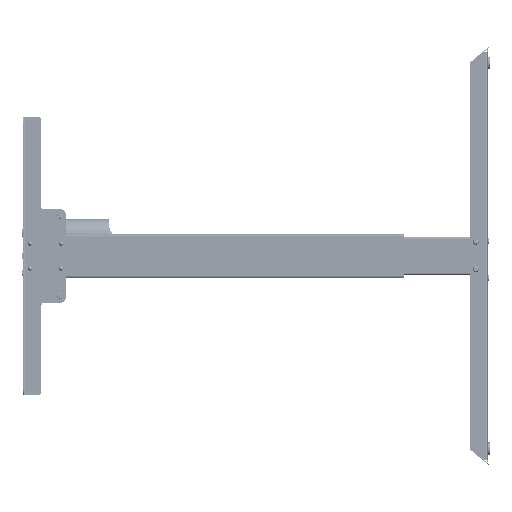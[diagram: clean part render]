
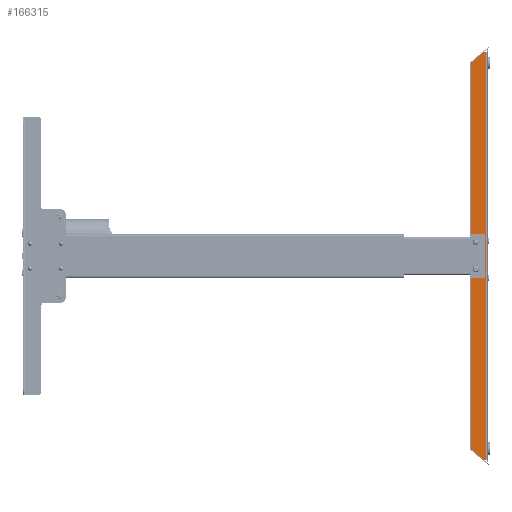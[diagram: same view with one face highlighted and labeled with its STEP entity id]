
A CAD part, left-side view. The second image highlights one B-rep face of the part: STEP entity #166315.
In plain terms, the highlighted planar face has unit normal (-1, 0, 0).
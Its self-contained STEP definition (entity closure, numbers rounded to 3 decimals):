
#1373 = VERTEX_POINT ( 'NONE', #143374 ) ;
#2150 = CIRCLE ( 'NONE', #119878, 2.5 ) ;
#5421 = LINE ( 'NONE', #123689, #31059 ) ;
#5588 = DIRECTION ( 'NONE',  ( 0., 0.766, 0.643 ) ) ;
#5807 = VERTEX_POINT ( 'NONE', #110373 ) ;
#7704 = CARTESIAN_POINT ( 'NONE',  ( -21.5, 0., 333.5 ) ) ;
#7781 = ORIENTED_EDGE ( 'NONE', *, *, #153433, .T. ) ;
#8641 = EDGE_CURVE ( 'NONE', #139282, #1373, #20101, .T. ) ;
#9364 = DIRECTION ( 'NONE',  ( 0., 0., 1. ) ) ;
#11066 = ORIENTED_EDGE ( 'NONE', *, *, #85340, .F. ) ;
#13363 = CARTESIAN_POINT ( 'NONE',  ( -21.5, 24.928, 312.583 ) ) ;
#14635 = EDGE_CURVE ( 'NONE', #5807, #5807, #2150, .T. ) ;
#20101 = LINE ( 'NONE', #122182, #115752 ) ;
#20458 = LINE ( 'NONE', #32493, #84523 ) ;
#22192 = FACE_BOUND ( 'NONE', #145769, .T. ) ;
#24656 = VECTOR ( 'NONE', #48798, 1000. ) ;
#24871 = CARTESIAN_POINT ( 'NONE',  ( -21.5, 4.039, -329.5 ) ) ;
#25005 = VERTEX_POINT ( 'NONE', #24871 ) ;
#27159 = VERTEX_POINT ( 'NONE', #13363 ) ;
#27373 = CARTESIAN_POINT ( 'NONE',  ( -21.5, 1., 329.5 ) ) ;
#29376 = AXIS2_PLACEMENT_3D ( 'NONE', #84249, #29422, #160560 ) ;
#29422 = DIRECTION ( 'NONE',  ( -1., 0., 0. ) ) ;
#29542 = ORIENTED_EDGE ( 'NONE', *, *, #8641, .F. ) ;
#30661 = ORIENTED_EDGE ( 'NONE', *, *, #14635, .T. ) ;
#31059 = VECTOR ( 'NONE', #44789, 1000. ) ;
#32493 = CARTESIAN_POINT ( 'NONE',  ( -21.5, 26., 329.5 ) ) ;
#34019 = VERTEX_POINT ( 'NONE', #48613 ) ;
#34558 = EDGE_CURVE ( 'NONE', #69063, #69063, #111402, .T. ) ;
#36307 = VERTEX_POINT ( 'NONE', #120258 ) ;
#40462 = DIRECTION ( 'NONE',  ( 0., 0., -1. ) ) ;
#42985 = VERTEX_POINT ( 'NONE', #128992 ) ;
#44789 = DIRECTION ( 'NONE',  ( 0., 1., 0. ) ) ;
#48560 = VECTOR ( 'NONE', #108135, 1000. ) ;
#48613 = CARTESIAN_POINT ( 'NONE',  ( -21.5, 26., -310.284 ) ) ;
#48798 = DIRECTION ( 'NONE',  ( 0., 0., -1. ) ) ;
#55885 = EDGE_CURVE ( 'NONE', #62738, #42985, #122534, .T. ) ;
#56296 = CARTESIAN_POINT ( 'NONE',  ( -21.5, 1., 333.5 ) ) ;
#58306 = DIRECTION ( 'NONE',  ( -1., 0., 0. ) ) ;
#59685 = VERTEX_POINT ( 'NONE', #110315 ) ;
#60003 = EDGE_CURVE ( 'NONE', #27159, #36307, #157195, .T. ) ;
#62044 = VECTOR ( 'NONE', #109433, 1000. ) ;
#62650 = DIRECTION ( 'NONE',  ( 1., 0., 0. ) ) ;
#62738 = VERTEX_POINT ( 'NONE', #80392 ) ;
#65476 = ORIENTED_EDGE ( 'NONE', *, *, #152810, .F. ) ;
#69063 = VERTEX_POINT ( 'NONE', #93075 ) ;
#70958 = AXIS2_PLACEMENT_3D ( 'NONE', #139744, #114897, #152603 ) ;
#80392 = CARTESIAN_POINT ( 'NONE',  ( -21.5, 4.039, 329.5 ) ) ;
#81869 = DIRECTION ( 'NONE',  ( -1., 0., 0. ) ) ;
#84249 = CARTESIAN_POINT ( 'NONE',  ( -21.5, 4.039, 327.5 ) ) ;
#84523 = VECTOR ( 'NONE', #84806, 1000. ) ;
#84806 = DIRECTION ( 'NONE',  ( 0., -1., 0. ) ) ;
#85340 = EDGE_CURVE ( 'NONE', #62738, #135301, #20458, .T. ) ;
#88741 = AXIS2_PLACEMENT_3D ( 'NONE', #118767, #81869, #94697 ) ;
#93075 = CARTESIAN_POINT ( 'NONE',  ( -21.5, 18., -24. ) ) ;
#94697 = DIRECTION ( 'NONE',  ( 0., 0., 1. ) ) ;
#99739 = CARTESIAN_POINT ( 'NONE',  ( -21.5, 5.325, -329.032 ) ) ;
#99747 = EDGE_CURVE ( 'NONE', #59685, #25005, #5421, .T. ) ;
#102550 = CIRCLE ( 'NONE', #146412, 3. ) ;
#104642 = ORIENTED_EDGE ( 'NONE', *, *, #99747, .F. ) ;
#105549 = ORIENTED_EDGE ( 'NONE', *, *, #129856, .T. ) ;
#107364 = EDGE_CURVE ( 'NONE', #36307, #34019, #138879, .T. ) ;
#108135 = DIRECTION ( 'NONE',  ( 0., 0.766, -0.643 ) ) ;
#109433 = DIRECTION ( 'NONE',  ( 0., 0., -1. ) ) ;
#110247 = ORIENTED_EDGE ( 'NONE', *, *, #60003, .T. ) ;
#110315 = CARTESIAN_POINT ( 'NONE',  ( -21.5, 1., -329.5 ) ) ;
#110373 = CARTESIAN_POINT ( 'NONE',  ( -21.5, 18., 20. ) ) ;
#110539 = CARTESIAN_POINT ( 'NONE',  ( -21.5, 23., -310.284 ) ) ;
#111402 = CIRCLE ( 'NONE', #119628, 2.5 ) ;
#112339 = CARTESIAN_POINT ( 'NONE',  ( -21.5, 26., 333.5 ) ) ;
#114897 = DIRECTION ( 'NONE',  ( -1., 0., 0. ) ) ;
#115752 = VECTOR ( 'NONE', #5588, 1000. ) ;
#118767 = CARTESIAN_POINT ( 'NONE',  ( -21.5, 23., 310.284 ) ) ;
#119628 = AXIS2_PLACEMENT_3D ( 'NONE', #120226, #133059, #40462 ) ;
#119878 = AXIS2_PLACEMENT_3D ( 'NONE', #155198, #62650, #168044 ) ;
#120226 = CARTESIAN_POINT ( 'NONE',  ( -21.5, 18., -21.5 ) ) ;
#120258 = CARTESIAN_POINT ( 'NONE',  ( -21.5, 26., 310.284 ) ) ;
#122182 = CARTESIAN_POINT ( 'NONE',  ( -21.5, 328.433, -57.912 ) ) ;
#122534 = CIRCLE ( 'NONE', #29376, 2. ) ;
#122703 = CARTESIAN_POINT ( 'NONE',  ( -21.5, 0., 333.5 ) ) ;
#123689 = CARTESIAN_POINT ( 'NONE',  ( -21.5, 0., -329.5 ) ) ;
#125142 = FACE_OUTER_BOUND ( 'NONE', #137796, .T. ) ;
#125423 = AXIS2_PLACEMENT_3D ( 'NONE', #7704, #58306, #9364 ) ;
#128992 = CARTESIAN_POINT ( 'NONE',  ( -21.5, 5.325, 329.032 ) ) ;
#129856 = EDGE_CURVE ( 'NONE', #34019, #1373, #102550, .T. ) ;
#133059 = DIRECTION ( 'NONE',  ( 1., 0., 0. ) ) ;
#135151 = LINE ( 'NONE', #56296, #62044 ) ;
#135301 = VERTEX_POINT ( 'NONE', #27373 ) ;
#137796 = EDGE_LOOP ( 'NONE', ( #11066, #160408, #168068, #110247, #152946, #105549, #29542, #7781, #104642, #65476 ) ) ;
#138879 = LINE ( 'NONE', #112339, #24656 ) ;
#139282 = VERTEX_POINT ( 'NONE', #99739 ) ;
#139744 = CARTESIAN_POINT ( 'NONE',  ( -21.5, 4.039, -327.5 ) ) ;
#143328 = EDGE_CURVE ( 'NONE', #42985, #27159, #148379, .T. ) ;
#143374 = CARTESIAN_POINT ( 'NONE',  ( -21.5, 24.928, -312.583 ) ) ;
#145769 = EDGE_LOOP ( 'NONE', ( #30661 ) ) ;
#146412 = AXIS2_PLACEMENT_3D ( 'NONE', #110539, #149104, #162800 ) ;
#148379 = LINE ( 'NONE', #122703, #48560 ) ;
#149104 = DIRECTION ( 'NONE',  ( -1., 0., 0. ) ) ;
#152603 = DIRECTION ( 'NONE',  ( 0., 0., 1. ) ) ;
#152810 = EDGE_CURVE ( 'NONE', #135301, #59685, #135151, .T. ) ;
#152946 = ORIENTED_EDGE ( 'NONE', *, *, #107364, .T. ) ;
#153433 = EDGE_CURVE ( 'NONE', #139282, #25005, #169431, .T. ) ;
#155198 = CARTESIAN_POINT ( 'NONE',  ( -21.5, 18., 22.5 ) ) ;
#157195 = CIRCLE ( 'NONE', #88741, 3. ) ;
#160408 = ORIENTED_EDGE ( 'NONE', *, *, #55885, .T. ) ;
#160560 = DIRECTION ( 'NONE',  ( 0., 0., 1. ) ) ;
#160809 = EDGE_LOOP ( 'NONE', ( #165600 ) ) ;
#162800 = DIRECTION ( 'NONE',  ( 0., 0., 1. ) ) ;
#163695 = PLANE ( 'NONE',  #125423 ) ;
#164511 = FACE_BOUND ( 'NONE', #160809, .T. ) ;
#165600 = ORIENTED_EDGE ( 'NONE', *, *, #34558, .T. ) ;
#166315 = ADVANCED_FACE ( 'NONE', ( #22192, #164511, #125142 ), #163695, .T. ) ;
#168044 = DIRECTION ( 'NONE',  ( 0., 0., -1. ) ) ;
#168068 = ORIENTED_EDGE ( 'NONE', *, *, #143328, .T. ) ;
#169431 = CIRCLE ( 'NONE', #70958, 2. ) ;
